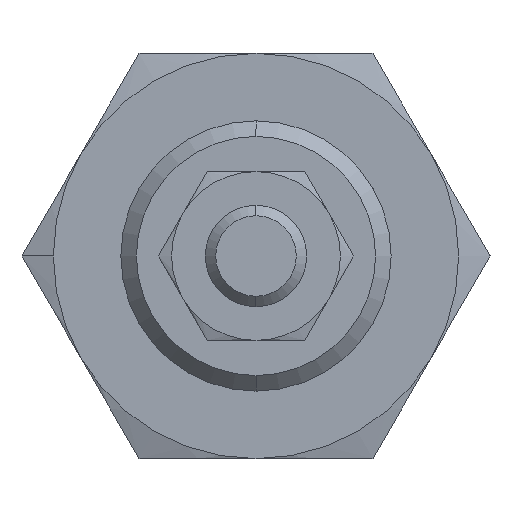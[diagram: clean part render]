
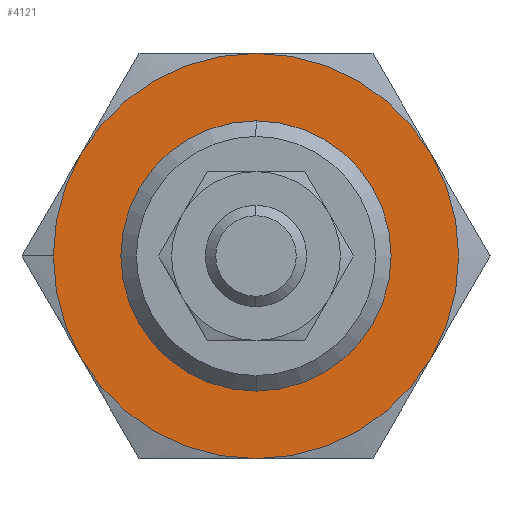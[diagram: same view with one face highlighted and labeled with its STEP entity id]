
A CAD part, left-side view. The second image highlights one B-rep face of the part: STEP entity #4121.
In plain terms, the highlighted planar face has unit normal (-1, 0, 0).
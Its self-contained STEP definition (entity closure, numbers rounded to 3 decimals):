
#60 = ORIENTED_EDGE ( 'NONE', *, *, #2631, .F. ) ;
#113 = ORIENTED_EDGE ( 'NONE', *, *, #3117, .T. ) ;
#141 = EDGE_CURVE ( 'NONE', #3293, #2515, #1879, .T. ) ;
#286 = DIRECTION ( 'NONE',  ( 1., 0., 0. ) ) ;
#288 = CARTESIAN_POINT ( 'NONE',  ( -13.5, 0., 0. ) ) ;
#355 = DIRECTION ( 'NONE',  ( -1., 0., 0. ) ) ;
#400 = AXIS2_PLACEMENT_3D ( 'NONE', #1372, #3398, #1740 ) ;
#424 = CARTESIAN_POINT ( 'NONE',  ( -13.5, 12., 0. ) ) ;
#425 = DIRECTION ( 'NONE',  ( 0., 1., 0. ) ) ;
#520 = AXIS2_PLACEMENT_3D ( 'NONE', #3092, #3413, #1152 ) ;
#566 = CARTESIAN_POINT ( 'NONE',  ( -13.5, -10.392, 6. ) ) ;
#600 = CIRCLE ( 'NONE', #808, 12. ) ;
#682 = CARTESIAN_POINT ( 'NONE',  ( -13.5, 12., 0. ) ) ;
#706 = FACE_OUTER_BOUND ( 'NONE', #3520, .T. ) ;
#711 = VERTEX_POINT ( 'NONE', #2935 ) ;
#808 = AXIS2_PLACEMENT_3D ( 'NONE', #1039, #1281, #2939 ) ;
#925 = CARTESIAN_POINT ( 'NONE',  ( -13.5, 0., 0. ) ) ;
#956 = AXIS2_PLACEMENT_3D ( 'NONE', #2672, #1003, #3275 ) ;
#963 = ORIENTED_EDGE ( 'NONE', *, *, #3860, .F. ) ;
#981 = DIRECTION ( 'NONE',  ( 0., 1., 0. ) ) ;
#1003 = DIRECTION ( 'NONE',  ( 1., 0., 0. ) ) ;
#1017 = VERTEX_POINT ( 'NONE', #3131 ) ;
#1039 = CARTESIAN_POINT ( 'NONE',  ( -13.5, 0., 0. ) ) ;
#1075 = DIRECTION ( 'NONE',  ( 1., 0., 0. ) ) ;
#1137 = VERTEX_POINT ( 'NONE', #3979 ) ;
#1152 = DIRECTION ( 'NONE',  ( 0., 1., 0. ) ) ;
#1221 = AXIS2_PLACEMENT_3D ( 'NONE', #3087, #1075, #425 ) ;
#1269 = DIRECTION ( 'NONE',  ( 1., 0., 0. ) ) ;
#1281 = DIRECTION ( 'NONE',  ( 1., 0., 0. ) ) ;
#1310 = DIRECTION ( 'NONE',  ( 1., 0., 0. ) ) ;
#1335 = FACE_BOUND ( 'NONE', #2249, .T. ) ;
#1372 = CARTESIAN_POINT ( 'NONE',  ( -13.5, 0., 0. ) ) ;
#1579 = AXIS2_PLACEMENT_3D ( 'NONE', #288, #1310, #2906 ) ;
#1713 = CIRCLE ( 'NONE', #2616, 8. ) ;
#1740 = DIRECTION ( 'NONE',  ( 0., 1., 0. ) ) ;
#1743 = EDGE_CURVE ( 'NONE', #2794, #711, #2268, .T. ) ;
#1746 = EDGE_CURVE ( 'NONE', #2515, #2794, #3912, .T. ) ;
#1795 = EDGE_CURVE ( 'NONE', #1137, #1951, #1713, .T. ) ;
#1797 = VERTEX_POINT ( 'NONE', #682 ) ;
#1879 = CIRCLE ( 'NONE', #2433, 12. ) ;
#1897 = CIRCLE ( 'NONE', #2445, 12. ) ;
#1914 = AXIS2_PLACEMENT_3D ( 'NONE', #424, #355, #2997 ) ;
#1930 = EDGE_CURVE ( 'NONE', #711, #2496, #3167, .T. ) ;
#1951 = VERTEX_POINT ( 'NONE', #3805 ) ;
#1972 = CIRCLE ( 'NONE', #1221, 12. ) ;
#2029 = ORIENTED_EDGE ( 'NONE', *, *, #3299, .F. ) ;
#2172 = ORIENTED_EDGE ( 'NONE', *, *, #1795, .T. ) ;
#2249 = EDGE_LOOP ( 'NONE', ( #2172, #113 ) ) ;
#2268 = CIRCLE ( 'NONE', #956, 12. ) ;
#2299 = DIRECTION ( 'NONE',  ( 1., 0., 0. ) ) ;
#2341 = DIRECTION ( 'NONE',  ( 0., 1., 0. ) ) ;
#2367 = PLANE ( 'NONE',  #1914 ) ;
#2433 = AXIS2_PLACEMENT_3D ( 'NONE', #925, #1269, #3494 ) ;
#2445 = AXIS2_PLACEMENT_3D ( 'NONE', #2626, #286, #981 ) ;
#2496 = VERTEX_POINT ( 'NONE', #4116 ) ;
#2515 = VERTEX_POINT ( 'NONE', #3828 ) ;
#2616 = AXIS2_PLACEMENT_3D ( 'NONE', #3631, #2299, #2341 ) ;
#2626 = CARTESIAN_POINT ( 'NONE',  ( -13.5, 0., 0. ) ) ;
#2631 = EDGE_CURVE ( 'NONE', #1017, #1797, #1897, .T. ) ;
#2672 = CARTESIAN_POINT ( 'NONE',  ( -13.5, 0., 0. ) ) ;
#2684 = ORIENTED_EDGE ( 'NONE', *, *, #1743, .F. ) ;
#2794 = VERTEX_POINT ( 'NONE', #566 ) ;
#2906 = DIRECTION ( 'NONE',  ( 0., 1., 0. ) ) ;
#2935 = CARTESIAN_POINT ( 'NONE',  ( -13.5, -10.392, -6. ) ) ;
#2939 = DIRECTION ( 'NONE',  ( 0., 1., 0. ) ) ;
#2997 = DIRECTION ( 'NONE',  ( 0., 1., 0. ) ) ;
#2998 = CARTESIAN_POINT ( 'NONE',  ( -13.5, 10.392, 6. ) ) ;
#3075 = ORIENTED_EDGE ( 'NONE', *, *, #1930, .F. ) ;
#3087 = CARTESIAN_POINT ( 'NONE',  ( -13.5, 0., 0. ) ) ;
#3092 = CARTESIAN_POINT ( 'NONE',  ( -13.5, 0., 0. ) ) ;
#3117 = EDGE_CURVE ( 'NONE', #1951, #1137, #3960, .T. ) ;
#3131 = CARTESIAN_POINT ( 'NONE',  ( -13.5, 10.392, -6. ) ) ;
#3167 = CIRCLE ( 'NONE', #400, 12. ) ;
#3226 = ORIENTED_EDGE ( 'NONE', *, *, #1746, .F. ) ;
#3275 = DIRECTION ( 'NONE',  ( 0., 1., 0. ) ) ;
#3293 = VERTEX_POINT ( 'NONE', #2998 ) ;
#3299 = EDGE_CURVE ( 'NONE', #1797, #3293, #1972, .T. ) ;
#3308 = ORIENTED_EDGE ( 'NONE', *, *, #141, .F. ) ;
#3398 = DIRECTION ( 'NONE',  ( 1., 0., 0. ) ) ;
#3413 = DIRECTION ( 'NONE',  ( 1., 0., 0. ) ) ;
#3494 = DIRECTION ( 'NONE',  ( 0., 1., 0. ) ) ;
#3520 = EDGE_LOOP ( 'NONE', ( #60, #963, #3075, #2684, #3226, #3308, #2029 ) ) ;
#3631 = CARTESIAN_POINT ( 'NONE',  ( -13.5, 0., 0. ) ) ;
#3805 = CARTESIAN_POINT ( 'NONE',  ( -13.5, 8., 0. ) ) ;
#3828 = CARTESIAN_POINT ( 'NONE',  ( -13.5, 0., 12. ) ) ;
#3860 = EDGE_CURVE ( 'NONE', #2496, #1017, #600, .T. ) ;
#3912 = CIRCLE ( 'NONE', #1579, 12. ) ;
#3960 = CIRCLE ( 'NONE', #520, 8. ) ;
#3979 = CARTESIAN_POINT ( 'NONE',  ( -13.5, -8., 0. ) ) ;
#4116 = CARTESIAN_POINT ( 'NONE',  ( -13.5, 0., -12. ) ) ;
#4121 = ADVANCED_FACE ( 'NONE', ( #706, #1335 ), #2367, .T. ) ;
